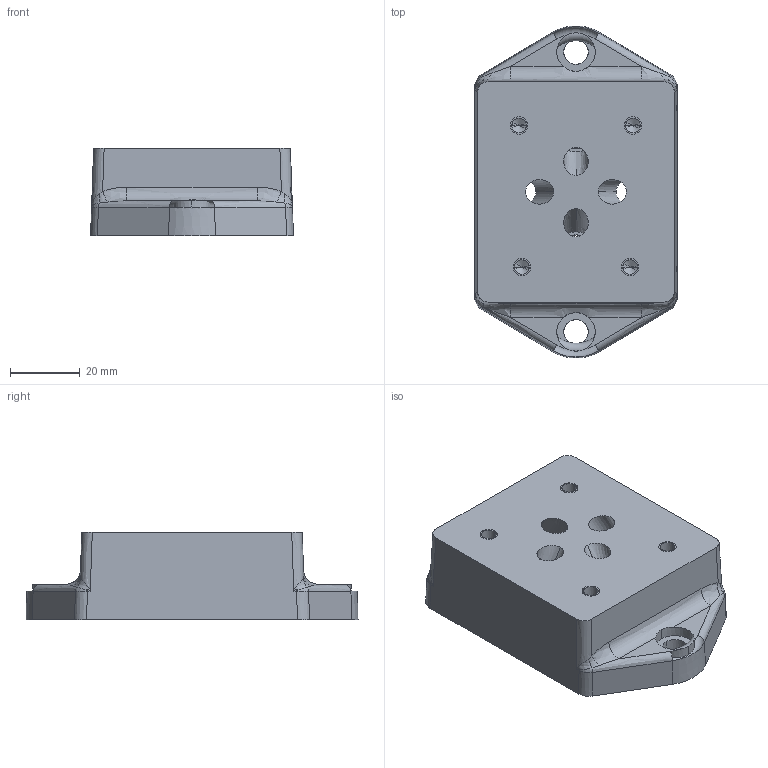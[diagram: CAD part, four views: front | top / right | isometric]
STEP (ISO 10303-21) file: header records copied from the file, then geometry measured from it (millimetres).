
FILE_DESCRIPTION((''),'2;1');
FILE_NAME('490_1441','2013-03-18T',('lsoukupova'),(''),'PRO/ENGINEER BY PARAMETRIC TECHNOLOGY CORPORATION, 2012360','PRO/ENGINEER BY PARAMETRIC TECHNOLOGY CORPORATION, 2012360','');
FILE_SCHEMA(('AUTOMOTIVE_DESIGN { 1 0 10303 214 1 1 1 1 }'));
Length unit declared in the file: millimetre
Products named in the file (1): 490_1441
Bounding box: 57.99 x 94.92 x 25 mm (x, y, z)
Surface area: 23639.1 mm2 (no closed solid volume)
Topology: 0 solids, 0 shells, 156 faces, 747 edges, 740 vertices
Faces by surface type: bspline 154, torus 2
Entity records: 18872 total; most frequent: CARTESIAN_POINT 11564, DIRECTION 1006, TRIMMED_CURVE 797, COMPOSITE_CURVE_SEGMENT 731, DEFINITIONAL_REPRESENTATION 708, PCURVE 708, VECTOR 631, LINE 631
